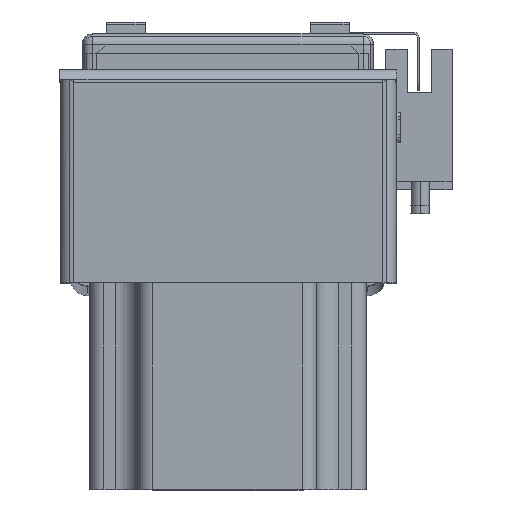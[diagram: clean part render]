
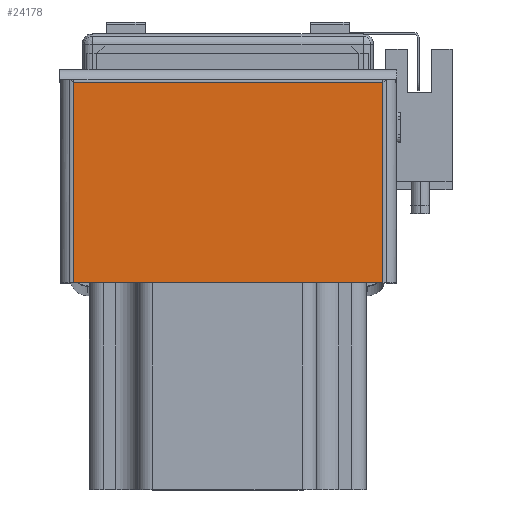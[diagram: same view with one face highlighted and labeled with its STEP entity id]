
A CAD part, top view. The second image highlights one B-rep face of the part: STEP entity #24178.
In plain terms, the highlighted planar face has unit normal (0, 0, 1) as drawn and (1, 0, 0) by its records, which use the part's own axes.
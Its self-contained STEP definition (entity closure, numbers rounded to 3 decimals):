
#3102 = LINE ( 'NONE', #26820, #3141 ) ;
#3136 = VECTOR ( 'NONE', #26790, 1000. ) ;
#3141 = VECTOR ( 'NONE', #26800, 1000. ) ;
#3142 = LINE ( 'NONE', #26825, #3136 ) ;
#3186 = VECTOR ( 'NONE', #26984, 1000. ) ;
#3194 = LINE ( 'NONE', #26952, #3186 ) ;
#5035 = CARTESIAN_POINT ( 'NONE',  ( 2., 42., -32.6 ) ) ;
#5039 = PLANE ( 'NONE',  #18927 ) ;
#5040 = DIRECTION ( 'NONE',  ( 0., 0., 1. ) ) ;
#5044 = DIRECTION ( 'NONE',  ( -1., 0., 0. ) ) ;
#11729 = CARTESIAN_POINT ( 'NONE',  ( 2., 41.263, -31.863 ) ) ;
#11763 = CARTESIAN_POINT ( 'NONE',  ( 2., 0., 31.863 ) ) ;
#11816 = CARTESIAN_POINT ( 'NONE',  ( 2., 41.263, 31.863 ) ) ;
#11850 = CARTESIAN_POINT ( 'NONE',  ( 2., 0., -31.863 ) ) ;
#16665 = EDGE_LOOP ( 'NONE', ( #17654, #17679, #17622, #17649 ) ) ;
#17622 = ORIENTED_EDGE ( 'NONE', *, *, #30970, .T. ) ;
#17649 = ORIENTED_EDGE ( 'NONE', *, *, #31038, .F. ) ;
#17654 = ORIENTED_EDGE ( 'NONE', *, *, #19800, .T. ) ;
#17679 = ORIENTED_EDGE ( 'NONE', *, *, #30980, .T. ) ;
#18927 = AXIS2_PLACEMENT_3D ( 'NONE', #5035, #5044, #5040 ) ;
#19800 = EDGE_CURVE ( 'NONE', #22721, #22851, #23214, .T. ) ;
#22721 = VERTEX_POINT ( 'NONE', #11729 ) ;
#22787 = VERTEX_POINT ( 'NONE', #11763 ) ;
#22849 = VERTEX_POINT ( 'NONE', #11850 ) ;
#22851 = VERTEX_POINT ( 'NONE', #11816 ) ;
#23201 = VECTOR ( 'NONE', #36597, 1000. ) ;
#23214 = LINE ( 'NONE', #36623, #23201 ) ;
#24178 = ADVANCED_FACE ( 'NONE', ( #36457 ), #5039, .F. ) ;
#26790 = DIRECTION ( 'NONE',  ( 0., -1., 0. ) ) ;
#26800 = DIRECTION ( 'NONE',  ( 0., 0., -1. ) ) ;
#26820 = CARTESIAN_POINT ( 'NONE',  ( 2., 0., -32.6 ) ) ;
#26825 = CARTESIAN_POINT ( 'NONE',  ( 2., 42., 31.863 ) ) ;
#26952 = CARTESIAN_POINT ( 'NONE',  ( 2., 42., -31.863 ) ) ;
#26984 = DIRECTION ( 'NONE',  ( 0., -1., 0. ) ) ;
#30970 = EDGE_CURVE ( 'NONE', #22787, #22849, #3102, .T. ) ;
#30980 = EDGE_CURVE ( 'NONE', #22851, #22787, #3142, .T. ) ;
#31038 = EDGE_CURVE ( 'NONE', #22721, #22849, #3194, .T. ) ;
#36457 = FACE_OUTER_BOUND ( 'NONE', #16665, .T. ) ;
#36597 = DIRECTION ( 'NONE',  ( 0., 0., 1. ) ) ;
#36623 = CARTESIAN_POINT ( 'NONE',  ( 2., 41.263, -31.863 ) ) ;
